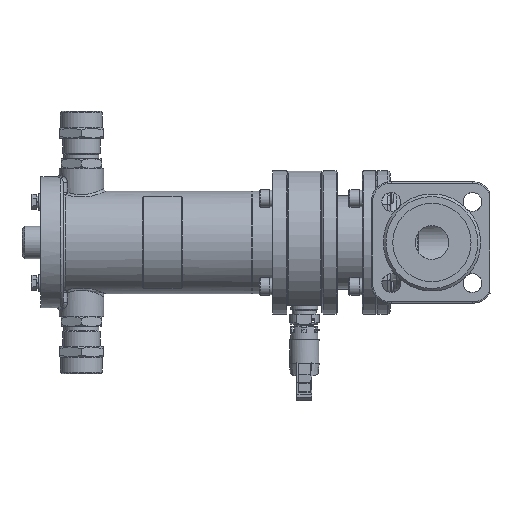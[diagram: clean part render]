
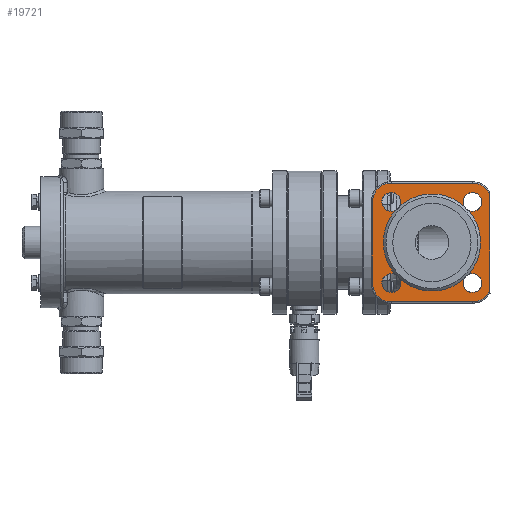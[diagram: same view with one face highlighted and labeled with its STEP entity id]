
A CAD part, left-side view. The second image highlights one B-rep face of the part: STEP entity #19721.
In plain terms, the highlighted planar face has unit normal (-1, 0, 0).
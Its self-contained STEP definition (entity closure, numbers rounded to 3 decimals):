
#19721=ADVANCED_FACE('',(#45582,#45584),#45586,.T.);
#45582=FACE_BOUND('',#45583,.T.);
#45583=EDGE_LOOP('',(#69313,#69314,#69315,#69316,#69317,#69318,#69319,#69320));
#45584=FACE_BOUND('',#45585,.T.);
#45585=EDGE_LOOP('',(#69321,#69322,#69323,#69324,#69325,#69326,#69327,#69328,#69329,
#69330,#69331,#69332,#69333));
#45586=PLANE('',#45587);
#45587=AXIS2_PLACEMENT_3D('',#45588,#45589,#45590);
#45588=CARTESIAN_POINT('',(-96.,0.,0.));
#45589=DIRECTION('',(-1.,0.,0.));
#45590=DIRECTION('',(0.,1.,0.));
#69313=ORIENTED_EDGE('',*,*,#78975,.T.);
#69314=ORIENTED_EDGE('',*,*,#79100,.T.);
#69315=ORIENTED_EDGE('',*,*,#79101,.T.);
#69316=ORIENTED_EDGE('',*,*,#79102,.T.);
#69317=ORIENTED_EDGE('',*,*,#79103,.T.);
#69318=ORIENTED_EDGE('',*,*,#79104,.T.);
#69319=ORIENTED_EDGE('',*,*,#79105,.T.);
#69320=ORIENTED_EDGE('',*,*,#79106,.T.);
#69321=ORIENTED_EDGE('',*,*,#78992,.T.);
#69322=ORIENTED_EDGE('',*,*,#78994,.T.);
#69323=ORIENTED_EDGE('',*,*,#79107,.T.);
#69324=ORIENTED_EDGE('',*,*,#78997,.T.);
#69325=ORIENTED_EDGE('',*,*,#78996,.T.);
#69326=ORIENTED_EDGE('',*,*,#79108,.T.);
#69327=ORIENTED_EDGE('',*,*,#78999,.T.);
#69328=ORIENTED_EDGE('',*,*,#78998,.T.);
#69329=ORIENTED_EDGE('',*,*,#79109,.T.);
#69330=ORIENTED_EDGE('',*,*,#79001,.T.);
#69331=ORIENTED_EDGE('',*,*,#79003,.T.);
#69332=ORIENTED_EDGE('',*,*,#79110,.T.);
#69333=ORIENTED_EDGE('',*,*,#79111,.T.);
#78975=EDGE_CURVE('',#91477,#91475,#91478,.F.);
#78992=EDGE_CURVE('',#91503,#91504,#91505,.F.);
#78994=EDGE_CURVE('',#91504,#91506,#91508,.F.);
#78996=EDGE_CURVE('',#91512,#91509,#91513,.F.);
#78997=EDGE_CURVE('',#91510,#91512,#91514,.F.);
#78998=EDGE_CURVE('',#91515,#91516,#91517,.F.);
#78999=EDGE_CURVE('',#91518,#91515,#91519,.F.);
#79001=EDGE_CURVE('',#91521,#91522,#91523,.F.);
#79003=EDGE_CURVE('',#91522,#91524,#91526,.F.);
#79100=EDGE_CURVE('',#91475,#91676,#91678,.T.);
#79101=EDGE_CURVE('',#91676,#91679,#91680,.T.);
#79102=EDGE_CURVE('',#91679,#91681,#91682,.T.);
#79103=EDGE_CURVE('',#91681,#91683,#91684,.T.);
#79104=EDGE_CURVE('',#91683,#91685,#91686,.T.);
#79105=EDGE_CURVE('',#91685,#91687,#91688,.T.);
#79106=EDGE_CURVE('',#91687,#91477,#91689,.T.);
#79107=EDGE_CURVE('',#91506,#91510,#91690,.T.);
#79108=EDGE_CURVE('',#91509,#91518,#91691,.T.);
#79109=EDGE_CURVE('',#91516,#91521,#91692,.T.);
#79110=EDGE_CURVE('',#91524,#91693,#91694,.T.);
#79111=EDGE_CURVE('',#91693,#91503,#91695,.T.);
#91475=VERTEX_POINT('',#125504);
#91477=VERTEX_POINT('',#125578);
#91478=LINE('',#125579,#125580);
#91503=VERTEX_POINT('',#125790);
#91504=VERTEX_POINT('',#125791);
#91505=CIRCLE('',#125792,7.);
#91506=VERTEX_POINT('',#125796);
#91508=CIRCLE('',#125843,7.);
#91509=VERTEX_POINT('',#125847);
#91510=VERTEX_POINT('',#125848);
#91512=VERTEX_POINT('',#125895);
#91513=CIRCLE('',#125896,7.);
#91514=CIRCLE('',#125900,7.);
#91515=VERTEX_POINT('',#125904);
#91516=VERTEX_POINT('',#125905);
#91517=CIRCLE('',#125906,7.);
#91518=VERTEX_POINT('',#125910);
#91519=CIRCLE('',#125911,7.);
#91521=VERTEX_POINT('',#125961);
#91522=VERTEX_POINT('',#125962);
#91523=CIRCLE('',#125963,7.);
#91524=VERTEX_POINT('',#125967);
#91526=CIRCLE('',#126014,7.);
#91676=VERTEX_POINT('',#127451);
#91678=CIRCLE('',#127456,14.);
#91679=VERTEX_POINT('',#127460);
#91680=LINE('',#127461,#127462);
#91681=VERTEX_POINT('',#127464);
#91682=CIRCLE('',#127465,14.);
#91683=VERTEX_POINT('',#127469);
#91684=LINE('',#127470,#127471);
#91685=VERTEX_POINT('',#127473);
#91686=CIRCLE('',#127474,14.);
#91687=VERTEX_POINT('',#127478);
#91688=LINE('',#127479,#127480);
#91689=CIRCLE('',#127482,14.);
#91690=CIRCLE('',#127486,36.);
#91691=CIRCLE('',#127490,36.);
#91692=CIRCLE('',#127494,36.);
#91693=VERTEX_POINT('',#127498);
#91694=CIRCLE('',#127499,36.);
#91695=CIRCLE('',#127503,36.);
#125504=CARTESIAN_POINT('',(-96.,-43.,35.196));
#125578=CARTESIAN_POINT('',(-96.,-43.,-35.196));
#125579=CARTESIAN_POINT('',(-96.,-43.,35.196));
#125580=VECTOR('',#125581,1.);
#125581=DIRECTION('',(0.,0.,-1.));
#125790=CARTESIAN_POINT('',(-96.,27.09,23.71));
#125791=CARTESIAN_POINT('',(-96.,30.052,23.052));
#125792=AXIS2_PLACEMENT_3D('',#125793,#125794,#125795);
#125793=CARTESIAN_POINT('',(-96.,30.052,30.052));
#125794=DIRECTION('',(-1.,0.,0.));
#125795=DIRECTION('',(0.,0.,-1.));
#125796=CARTESIAN_POINT('',(-96.,23.71,27.09));
#125843=AXIS2_PLACEMENT_3D('',#125844,#125845,#125846);
#125844=CARTESIAN_POINT('',(-96.,30.052,30.052));
#125845=DIRECTION('',(-1.,0.,0.));
#125846=DIRECTION('',(0.,-0.906,-0.423));
#125847=CARTESIAN_POINT('',(-96.,-27.09,23.71));
#125848=CARTESIAN_POINT('',(-96.,-23.71,27.09));
#125895=CARTESIAN_POINT('',(-96.,-30.052,23.052));
#125896=AXIS2_PLACEMENT_3D('',#125897,#125898,#125899);
#125897=CARTESIAN_POINT('',(-96.,-30.052,30.052));
#125898=DIRECTION('',(-1.,0.,0.));
#125899=DIRECTION('',(0.,0.423,-0.906));
#125900=AXIS2_PLACEMENT_3D('',#125901,#125902,#125903);
#125901=CARTESIAN_POINT('',(-96.,-30.052,30.052));
#125902=DIRECTION('',(-1.,0.,0.));
#125903=DIRECTION('',(0.,0.,-1.));
#125904=CARTESIAN_POINT('',(-96.,-30.052,-37.052));
#125905=CARTESIAN_POINT('',(-96.,-23.71,-27.09));
#125906=AXIS2_PLACEMENT_3D('',#125907,#125908,#125909);
#125907=CARTESIAN_POINT('',(-96.,-30.052,-30.052));
#125908=DIRECTION('',(-1.,0.,0.));
#125909=DIRECTION('',(0.,0.906,0.423));
#125910=CARTESIAN_POINT('',(-96.,-27.09,-23.71));
#125911=AXIS2_PLACEMENT_3D('',#125912,#125913,#125914);
#125912=CARTESIAN_POINT('',(-96.,-30.052,-30.052));
#125913=DIRECTION('',(-1.,0.,0.));
#125914=DIRECTION('',(0.,0.,-1.));
#125961=CARTESIAN_POINT('',(-96.,23.71,-27.09));
#125962=CARTESIAN_POINT('',(-96.,30.052,-37.052));
#125963=AXIS2_PLACEMENT_3D('',#125964,#125965,#125966);
#125964=CARTESIAN_POINT('',(-96.,30.052,-30.052));
#125965=DIRECTION('',(-1.,0.,0.));
#125966=DIRECTION('',(0.,0.,-1.));
#125967=CARTESIAN_POINT('',(-96.,27.09,-23.71));
#126014=AXIS2_PLACEMENT_3D('',#126015,#126016,#126017);
#126015=CARTESIAN_POINT('',(-96.,30.052,-30.052));
#126016=DIRECTION('',(-1.,0.,0.));
#126017=DIRECTION('',(0.,-0.423,0.906));
#127451=CARTESIAN_POINT('',(-96.,-30.,44.));
#127456=AXIS2_PLACEMENT_3D('',#127457,#127458,#127459);
#127457=CARTESIAN_POINT('',(-96.,-30.,30.));
#127458=DIRECTION('',(-1.,0.,0.));
#127459=DIRECTION('',(0.,-0.929,0.371));
#127460=CARTESIAN_POINT('',(-96.,30.,44.));
#127461=CARTESIAN_POINT('',(-96.,-30.,44.));
#127462=VECTOR('',#127463,1.);
#127463=DIRECTION('',(0.,1.,0.));
#127464=CARTESIAN_POINT('',(-96.,44.,30.));
#127465=AXIS2_PLACEMENT_3D('',#127466,#127467,#127468);
#127466=CARTESIAN_POINT('',(-96.,30.,30.));
#127467=DIRECTION('',(-1.,0.,0.));
#127468=DIRECTION('',(0.,0.,1.));
#127469=CARTESIAN_POINT('',(-96.,44.,-30.));
#127470=CARTESIAN_POINT('',(-96.,44.,30.));
#127471=VECTOR('',#127472,1.);
#127472=DIRECTION('',(0.,0.,-1.));
#127473=CARTESIAN_POINT('',(-96.,30.,-44.));
#127474=AXIS2_PLACEMENT_3D('',#127475,#127476,#127477);
#127475=CARTESIAN_POINT('',(-96.,30.,-30.));
#127476=DIRECTION('',(-1.,0.,0.));
#127477=DIRECTION('',(0.,1.,0.));
#127478=CARTESIAN_POINT('',(-96.,-30.,-44.));
#127479=CARTESIAN_POINT('',(-96.,30.,-44.));
#127480=VECTOR('',#127481,1.);
#127481=DIRECTION('',(0.,-1.,0.));
#127482=AXIS2_PLACEMENT_3D('',#127483,#127484,#127485);
#127483=CARTESIAN_POINT('',(-96.,-30.,-30.));
#127484=DIRECTION('',(-1.,0.,0.));
#127485=DIRECTION('',(0.,0.,-1.));
#127486=AXIS2_PLACEMENT_3D('',#127487,#127488,#127489);
#127487=CARTESIAN_POINT('',(-96.,0.,0.));
#127488=DIRECTION('',(1.,0.,0.));
#127489=DIRECTION('',(0.,0.659,0.752));
#127490=AXIS2_PLACEMENT_3D('',#127491,#127492,#127493);
#127491=CARTESIAN_POINT('',(-96.,0.,0.));
#127492=DIRECTION('',(1.,0.,0.));
#127493=DIRECTION('',(0.,-0.752,0.659));
#127494=AXIS2_PLACEMENT_3D('',#127495,#127496,#127497);
#127495=CARTESIAN_POINT('',(-96.,0.,0.));
#127496=DIRECTION('',(1.,0.,0.));
#127497=DIRECTION('',(0.,-0.659,-0.752));
#127498=CARTESIAN_POINT('',(-96.,36.,0.));
#127499=AXIS2_PLACEMENT_3D('',#127500,#127501,#127502);
#127500=CARTESIAN_POINT('',(-96.,0.,0.));
#127501=DIRECTION('',(1.,0.,0.));
#127502=DIRECTION('',(0.,0.752,-0.659));
#127503=AXIS2_PLACEMENT_3D('',#127504,#127505,#127506);
#127504=CARTESIAN_POINT('',(-96.,0.,0.));
#127505=DIRECTION('',(1.,0.,0.));
#127506=DIRECTION('',(0.,1.,0.));
